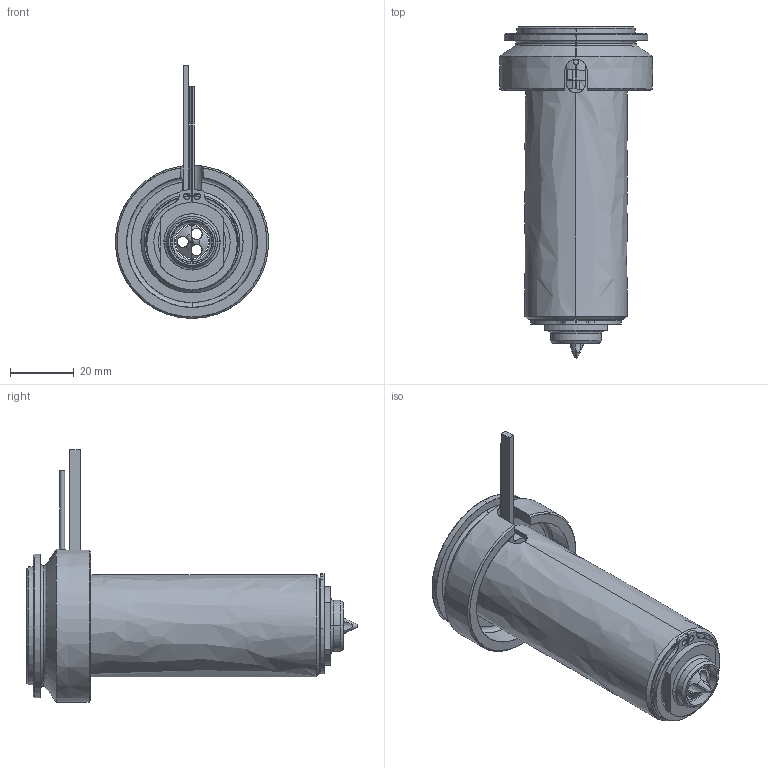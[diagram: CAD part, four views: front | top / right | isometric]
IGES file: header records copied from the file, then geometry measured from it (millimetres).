
Start section: SolidWorks IGES file using analytic representation for surfaces
Global section: file name: C:\Documents and Settings\ws-20\Desktop\TEM\UGEP5002-M-A-0 [Øf-0.80 ØC-12].IGS; native system: SolidWorks 2012; preprocessor: SolidWorks 2012; author: ws-20; date: 120426.095718; units: millimetre
Bounding box: 48 x 104.05 x 79.3 mm (x, y, z)
Surface area: 39448.1 mm2 (no closed solid volume)
Topology: 0 solids, 0 shells, 122 faces, 2284 edges, 2284 vertices
Faces by surface type: revolution 75, bspline 47
